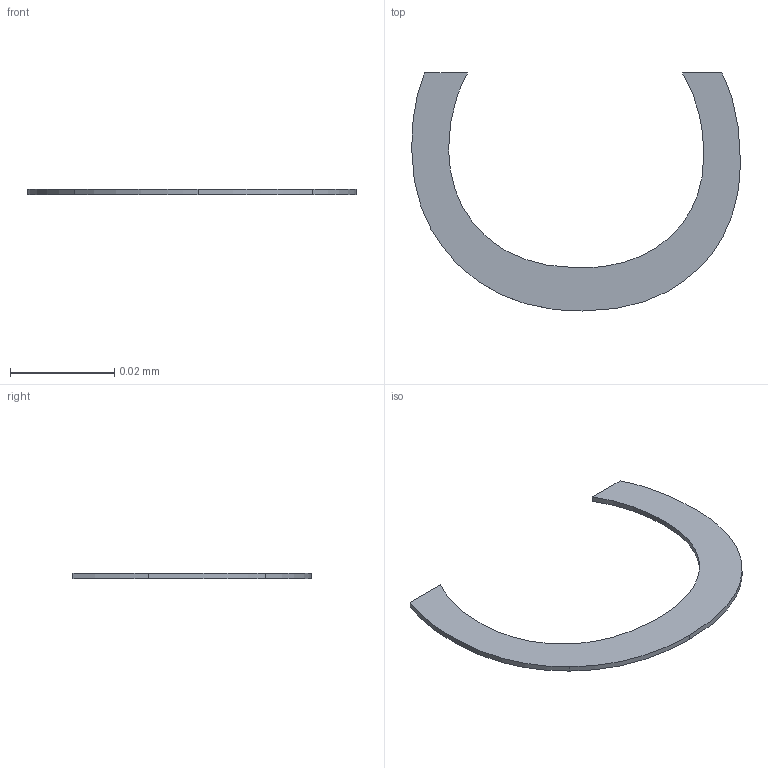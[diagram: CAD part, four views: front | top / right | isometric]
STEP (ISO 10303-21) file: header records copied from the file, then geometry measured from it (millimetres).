
FILE_DESCRIPTION(/* description */ ('STEP AP242 Edition 2','CAx-IF Rec.Pracs.---Representation and Presentation of Product Manufacturing Information (PMI)---4.0---2014-10-13','CAx-IF Rec.Pracs.---3D Tessellated Geometry---0.4---2014-09-14','2;1','CAx-IF Rec.Pracs.---User Defined Attributes---1.5---2016-08-15'),/* implementation_level */ '2;1');
FILE_NAME(/* name */ 'Assembly 1 - SOT-23-3_L2.9-W1.3-P0.95-LS2.4-BR~SOT-23-3P_L2.9-W1.3-H1.0-LS2.4-P0.95~nxQB (5)',/* time_stamp */ '2026-04-02T09:55:24Z',/* author */ (''),/* organization */ (''),/* preprocessor_version */ 'ST-DEVELOPER v20',/* originating_system */ 'ONSHAPE BY PTC INC, 1.212',/* authorisation */ ' ');
FILE_SCHEMA (('AP242_MANAGED_MODEL_BASED_3D_ENGINEERING_MIM_LF { 1 0 10303 442 3 1 4 }'));
Length unit declared in the file: metre
Products named in the file (1): SOT-23-3_L2.9-W1.3-P0.95-LS2.4-BR~SOT-23-3P_L2.9-W1.3-H1.0-LS2.4-P0.9
5~nxQB
Bounding box: 0.06 x 0.05 x 0 mm (x, y, z)
Volume: 0 mm3; surface area: 0 mm2
Topology: 1 solids, 1 shells, 16 faces, 42 edges, 28 vertices
Faces by surface type: bspline 12, plane 4
Entity records: 693 total; most frequent: CARTESIAN_POINT 243, ORIENTED_EDGE 84, EDGE_CURVE 42, VERTEX_POINT 28, DIRECTION 28, B_SPLINE_CURVE_WITH_KNOTS 24, LINE 18, VECTOR 18
